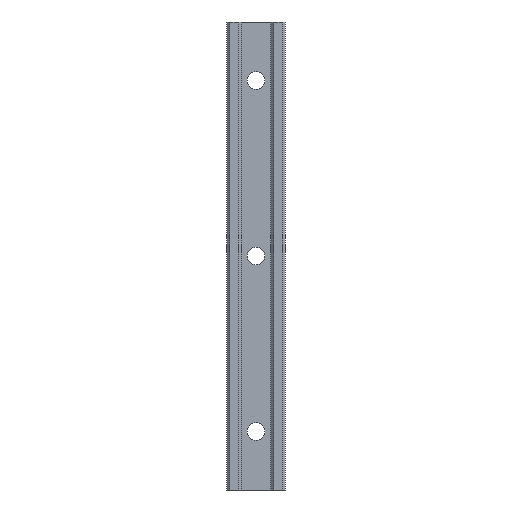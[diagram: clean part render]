
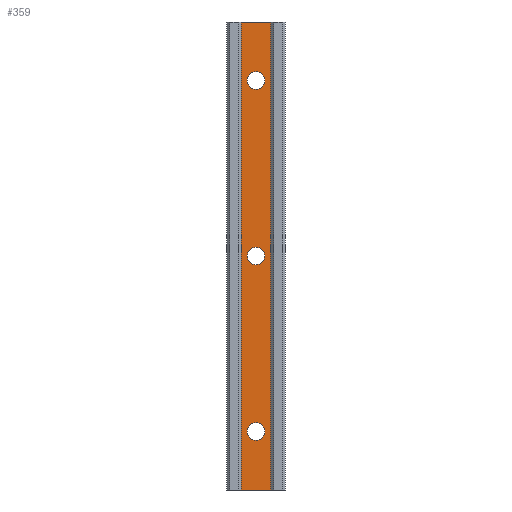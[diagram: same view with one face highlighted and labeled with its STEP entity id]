
A CAD part, front view. The second image highlights one B-rep face of the part: STEP entity #359.
In plain terms, the highlighted planar face has unit normal (0, -1, 0).
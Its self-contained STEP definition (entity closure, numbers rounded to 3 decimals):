
#14 = DIRECTION ( 'NONE',  ( 0., 1., 0. ) ) ;
#15 = VERTEX_POINT ( 'NONE', #506 ) ;
#28 = DIRECTION ( 'NONE',  ( 0., 0., 1. ) ) ;
#51 = ORIENTED_EDGE ( 'NONE', *, *, #427, .T. ) ;
#57 = AXIS2_PLACEMENT_3D ( 'NONE', #473, #1303, #357 ) ;
#66 = VERTEX_POINT ( 'NONE', #713 ) ;
#73 = CIRCLE ( 'NONE', #569, 3. ) ;
#117 = LINE ( 'NONE', #137, #620 ) ;
#137 = CARTESIAN_POINT ( 'NONE',  ( -5., 1., -80. ) ) ;
#144 = CARTESIAN_POINT ( 'NONE',  ( 0., 1., 63. ) ) ;
#164 = DIRECTION ( 'NONE',  ( 0., 1., 0. ) ) ;
#181 = CARTESIAN_POINT ( 'NONE',  ( 0., 1., 60. ) ) ;
#188 = EDGE_CURVE ( 'NONE', #15, #1252, #1309, .T. ) ;
#189 = FACE_BOUND ( 'NONE', #748, .T. ) ;
#196 = AXIS2_PLACEMENT_3D ( 'NONE', #875, #998, #1108 ) ;
#224 = EDGE_CURVE ( 'NONE', #391, #66, #117, .T. ) ;
#247 = AXIS2_PLACEMENT_3D ( 'NONE', #661, #373, #988 ) ;
#250 = CARTESIAN_POINT ( 'NONE',  ( 5., 1., -80. ) ) ;
#265 = VERTEX_POINT ( 'NONE', #1314 ) ;
#301 = ORIENTED_EDGE ( 'NONE', *, *, #1172, .T. ) ;
#320 = EDGE_CURVE ( 'NONE', #1165, #678, #501, .T. ) ;
#331 = DIRECTION ( 'NONE',  ( 0., 0., 1. ) ) ;
#357 = DIRECTION ( 'NONE',  ( 0., 0., 1. ) ) ;
#359 = ADVANCED_FACE ( 'NONE', ( #189, #1215, #670, #731 ), #775, .F. ) ;
#373 = DIRECTION ( 'NONE',  ( 0., 1., 0. ) ) ;
#376 = EDGE_CURVE ( 'NONE', #678, #1165, #703, .T. ) ;
#379 = DIRECTION ( 'NONE',  ( 0., 0., 1. ) ) ;
#391 = VERTEX_POINT ( 'NONE', #1125 ) ;
#396 = LINE ( 'NONE', #250, #1122 ) ;
#416 = ORIENTED_EDGE ( 'NONE', *, *, #376, .T. ) ;
#427 = EDGE_CURVE ( 'NONE', #1252, #15, #721, .T. ) ;
#440 = CARTESIAN_POINT ( 'NONE',  ( 0., 1., 0. ) ) ;
#464 = AXIS2_PLACEMENT_3D ( 'NONE', #440, #14, #331 ) ;
#465 = DIRECTION ( 'NONE',  ( 0., 0., 1. ) ) ;
#473 = CARTESIAN_POINT ( 'NONE',  ( 0., 1., 60. ) ) ;
#488 = LINE ( 'NONE', #757, #1175 ) ;
#489 = VECTOR ( 'NONE', #505, 1000. ) ;
#493 = EDGE_CURVE ( 'NONE', #928, #712, #73, .T. ) ;
#494 = EDGE_CURVE ( 'NONE', #656, #265, #396, .T. ) ;
#501 = CIRCLE ( 'NONE', #57, 3. ) ;
#505 = DIRECTION ( 'NONE',  ( -1., 0., 0. ) ) ;
#506 = CARTESIAN_POINT ( 'NONE',  ( 0., 1., 3. ) ) ;
#517 = ORIENTED_EDGE ( 'NONE', *, *, #952, .F. ) ;
#532 = LINE ( 'NONE', #1149, #489 ) ;
#562 = ORIENTED_EDGE ( 'NONE', *, *, #622, .T. ) ;
#569 = AXIS2_PLACEMENT_3D ( 'NONE', #894, #164, #379 ) ;
#620 = VECTOR ( 'NONE', #28, 1000. ) ;
#622 = EDGE_CURVE ( 'NONE', #265, #66, #532, .T. ) ;
#645 = DIRECTION ( 'NONE',  ( -1., 0., 0. ) ) ;
#649 = CARTESIAN_POINT ( 'NONE',  ( 0., 1., 57. ) ) ;
#656 = VERTEX_POINT ( 'NONE', #1069 ) ;
#661 = CARTESIAN_POINT ( 'NONE',  ( 0., 1., -60. ) ) ;
#666 = CIRCLE ( 'NONE', #247, 3. ) ;
#669 = AXIS2_PLACEMENT_3D ( 'NONE', #941, #1060, #771 ) ;
#670 = FACE_BOUND ( 'NONE', #1063, .T. ) ;
#678 = VERTEX_POINT ( 'NONE', #649 ) ;
#703 = CIRCLE ( 'NONE', #836, 3. ) ;
#712 = VERTEX_POINT ( 'NONE', #1082 ) ;
#713 = CARTESIAN_POINT ( 'NONE',  ( -5., 1., 80. ) ) ;
#721 = CIRCLE ( 'NONE', #464, 3. ) ;
#731 = FACE_OUTER_BOUND ( 'NONE', #1053, .T. ) ;
#737 = EDGE_LOOP ( 'NONE', ( #301, #845 ) ) ;
#748 = EDGE_LOOP ( 'NONE', ( #930, #51 ) ) ;
#757 = CARTESIAN_POINT ( 'NONE',  ( -5., 1., -80. ) ) ;
#771 = DIRECTION ( 'NONE',  ( 0., 0., 1. ) ) ;
#775 = PLANE ( 'NONE',  #196 ) ;
#836 = AXIS2_PLACEMENT_3D ( 'NONE', #181, #1029, #1136 ) ;
#845 = ORIENTED_EDGE ( 'NONE', *, *, #493, .T. ) ;
#866 = ORIENTED_EDGE ( 'NONE', *, *, #494, .T. ) ;
#875 = CARTESIAN_POINT ( 'NONE',  ( -5., 1., -80. ) ) ;
#894 = CARTESIAN_POINT ( 'NONE',  ( 0., 1., -60. ) ) ;
#911 = ORIENTED_EDGE ( 'NONE', *, *, #224, .F. ) ;
#928 = VERTEX_POINT ( 'NONE', #935 ) ;
#930 = ORIENTED_EDGE ( 'NONE', *, *, #188, .T. ) ;
#935 = CARTESIAN_POINT ( 'NONE',  ( 0., 1., -63. ) ) ;
#941 = CARTESIAN_POINT ( 'NONE',  ( 0., 1., 0. ) ) ;
#952 = EDGE_CURVE ( 'NONE', #656, #391, #488, .T. ) ;
#988 = DIRECTION ( 'NONE',  ( 0., 0., 1. ) ) ;
#998 = DIRECTION ( 'NONE',  ( 0., 1., 0. ) ) ;
#1029 = DIRECTION ( 'NONE',  ( 0., 1., 0. ) ) ;
#1053 = EDGE_LOOP ( 'NONE', ( #562, #911, #517, #866 ) ) ;
#1060 = DIRECTION ( 'NONE',  ( 0., 1., 0. ) ) ;
#1063 = EDGE_LOOP ( 'NONE', ( #1154, #416 ) ) ;
#1069 = CARTESIAN_POINT ( 'NONE',  ( 5., 1., -80. ) ) ;
#1082 = CARTESIAN_POINT ( 'NONE',  ( 0., 1., -57. ) ) ;
#1108 = DIRECTION ( 'NONE',  ( 0., 0., 1. ) ) ;
#1122 = VECTOR ( 'NONE', #465, 1000. ) ;
#1125 = CARTESIAN_POINT ( 'NONE',  ( -5., 1., -80. ) ) ;
#1136 = DIRECTION ( 'NONE',  ( 0., 0., 1. ) ) ;
#1149 = CARTESIAN_POINT ( 'NONE',  ( -5., 1., 80. ) ) ;
#1154 = ORIENTED_EDGE ( 'NONE', *, *, #320, .T. ) ;
#1165 = VERTEX_POINT ( 'NONE', #144 ) ;
#1172 = EDGE_CURVE ( 'NONE', #712, #928, #666, .T. ) ;
#1175 = VECTOR ( 'NONE', #645, 1000. ) ;
#1204 = CARTESIAN_POINT ( 'NONE',  ( 0., 1., -3. ) ) ;
#1215 = FACE_BOUND ( 'NONE', #737, .T. ) ;
#1252 = VERTEX_POINT ( 'NONE', #1204 ) ;
#1303 = DIRECTION ( 'NONE',  ( 0., 1., 0. ) ) ;
#1309 = CIRCLE ( 'NONE', #669, 3. ) ;
#1314 = CARTESIAN_POINT ( 'NONE',  ( 5., 1., 80. ) ) ;
